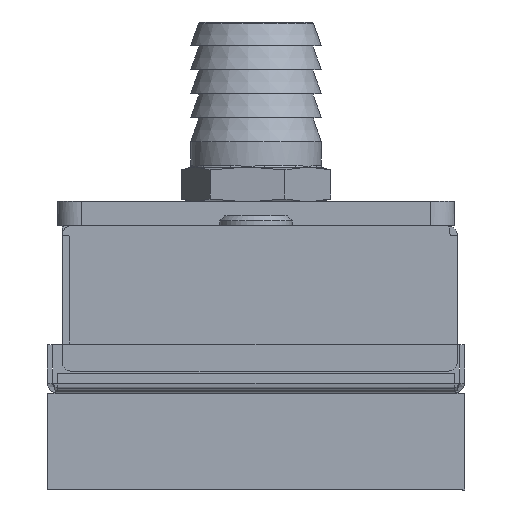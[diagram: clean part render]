
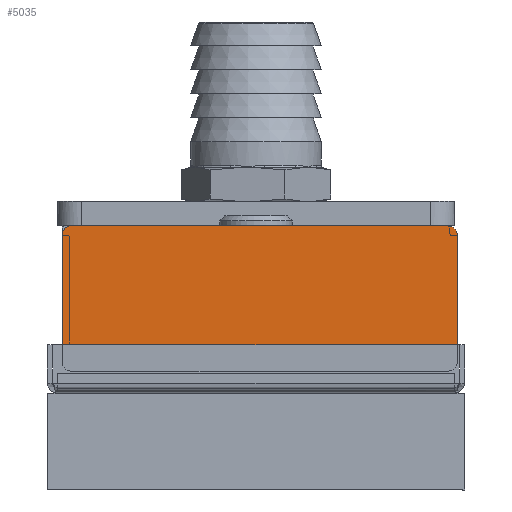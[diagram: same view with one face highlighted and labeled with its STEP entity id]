
A CAD part, front view. The second image highlights one B-rep face of the part: STEP entity #5035.
In plain terms, the highlighted planar face has unit normal (0, -1, 0).
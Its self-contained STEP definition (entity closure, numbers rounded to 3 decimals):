
#462 = CARTESIAN_POINT ( 'NONE',  ( -88.992, -1178.064, 27.327 ) ) ;
#503 = CIRCLE ( 'NONE', #7999, 2. ) ;
#957 = EDGE_CURVE ( 'NONE', #3614, #8486, #3384, .T. ) ;
#972 = VECTOR ( 'NONE', #7640, 1000. ) ;
#1458 = EDGE_CURVE ( 'NONE', #2331, #5798, #2917, .T. ) ;
#1490 = DIRECTION ( 'NONE',  ( -1., 0., 0. ) ) ;
#1536 = AXIS2_PLACEMENT_3D ( 'NONE', #9678, #3026, #3551 ) ;
#1692 = CARTESIAN_POINT ( 'NONE',  ( -9.492, -1178.064, 1.327 ) ) ;
#2048 = CARTESIAN_POINT ( 'NONE',  ( -11.492, -1178.064, 27.327 ) ) ;
#2141 = PLANE ( 'NONE',  #1536 ) ;
#2219 = EDGE_CURVE ( 'NONE', #11279, #3614, #6903, .T. ) ;
#2229 = ORIENTED_EDGE ( 'NONE', *, *, #4801, .F. ) ;
#2288 = VECTOR ( 'NONE', #9942, 1000. ) ;
#2331 = VERTEX_POINT ( 'NONE', #8978 ) ;
#2395 = VECTOR ( 'NONE', #10712, 1000. ) ;
#2917 = CIRCLE ( 'NONE', #12787, 2. ) ;
#2997 = CARTESIAN_POINT ( 'NONE',  ( -88.992, -1178.064, 1.327 ) ) ;
#3026 = DIRECTION ( 'NONE',  ( 0., -1., 0. ) ) ;
#3253 = CARTESIAN_POINT ( 'NONE',  ( -11.492, -1178.064, -0.673 ) ) ;
#3259 = CARTESIAN_POINT ( 'NONE',  ( -90.992, -1178.064, 1.327 ) ) ;
#3262 = DIRECTION ( 'NONE',  ( 0., 1., 0. ) ) ;
#3384 = CIRCLE ( 'NONE', #13544, 2. ) ;
#3551 = DIRECTION ( 'NONE',  ( -1., 0., 0. ) ) ;
#3614 = VERTEX_POINT ( 'NONE', #6202 ) ;
#3818 = DIRECTION ( 'NONE',  ( -1., 0., 0. ) ) ;
#4199 = DIRECTION ( 'NONE',  ( 1., 0., 0. ) ) ;
#4268 = CARTESIAN_POINT ( 'NONE',  ( -9.492, -1178.064, 27.327 ) ) ;
#4605 = ORIENTED_EDGE ( 'NONE', *, *, #4772, .F. ) ;
#4765 = ORIENTED_EDGE ( 'NONE', *, *, #10322, .F. ) ;
#4772 = EDGE_CURVE ( 'NONE', #9343, #5471, #503, .T. ) ;
#4801 = EDGE_CURVE ( 'NONE', #7548, #11279, #12663, .T. ) ;
#5035 = ADVANCED_FACE ( 'NONE', ( #12659 ), #2141, .T. ) ;
#5040 = CARTESIAN_POINT ( 'NONE',  ( -11.492, -1178.064, 29.327 ) ) ;
#5379 = ORIENTED_EDGE ( 'NONE', *, *, #10903, .F. ) ;
#5471 = VERTEX_POINT ( 'NONE', #4268 ) ;
#5518 = DIRECTION ( 'NONE',  ( 0., 1., 0. ) ) ;
#5773 = ORIENTED_EDGE ( 'NONE', *, *, #957, .F. ) ;
#5798 = VERTEX_POINT ( 'NONE', #12196 ) ;
#6202 = CARTESIAN_POINT ( 'NONE',  ( -88.992, -1178.064, -0.673 ) ) ;
#6544 = DIRECTION ( 'NONE',  ( 0., 0., -1. ) ) ;
#6693 = LINE ( 'NONE', #7457, #2395 ) ;
#6903 = LINE ( 'NONE', #13207, #2288 ) ;
#7457 = CARTESIAN_POINT ( 'NONE',  ( -90.992, -1178.064, 1.327 ) ) ;
#7548 = VERTEX_POINT ( 'NONE', #1692 ) ;
#7603 = CARTESIAN_POINT ( 'NONE',  ( -9.492, -1178.064, 1.327 ) ) ;
#7640 = DIRECTION ( 'NONE',  ( 1., 0., 0. ) ) ;
#7999 = AXIS2_PLACEMENT_3D ( 'NONE', #2048, #3262, #12525 ) ;
#8299 = ORIENTED_EDGE ( 'NONE', *, *, #1458, .F. ) ;
#8486 = VERTEX_POINT ( 'NONE', #3259 ) ;
#8978 = CARTESIAN_POINT ( 'NONE',  ( -90.992, -1178.064, 27.327 ) ) ;
#9343 = VERTEX_POINT ( 'NONE', #5040 ) ;
#9588 = LINE ( 'NONE', #11910, #972 ) ;
#9678 = CARTESIAN_POINT ( 'NONE',  ( -88.992, -1178.064, 1.327 ) ) ;
#9942 = DIRECTION ( 'NONE',  ( -1., 0., 0. ) ) ;
#10150 = EDGE_CURVE ( 'NONE', #8486, #2331, #6693, .T. ) ;
#10322 = EDGE_CURVE ( 'NONE', #5471, #7548, #11788, .T. ) ;
#10358 = AXIS2_PLACEMENT_3D ( 'NONE', #13525, #11323, #4199 ) ;
#10598 = ORIENTED_EDGE ( 'NONE', *, *, #2219, .F. ) ;
#10712 = DIRECTION ( 'NONE',  ( 0., 0., 1. ) ) ;
#10903 = EDGE_CURVE ( 'NONE', #5798, #9343, #9588, .T. ) ;
#11077 = ORIENTED_EDGE ( 'NONE', *, *, #10150, .F. ) ;
#11279 = VERTEX_POINT ( 'NONE', #3253 ) ;
#11323 = DIRECTION ( 'NONE',  ( 0., 1., 0. ) ) ;
#11788 = LINE ( 'NONE', #7603, #12329 ) ;
#11910 = CARTESIAN_POINT ( 'NONE',  ( -88.992, -1178.064, 29.327 ) ) ;
#12196 = CARTESIAN_POINT ( 'NONE',  ( -88.992, -1178.064, 29.327 ) ) ;
#12329 = VECTOR ( 'NONE', #6544, 1000. ) ;
#12355 = DIRECTION ( 'NONE',  ( 0., 1., 0. ) ) ;
#12525 = DIRECTION ( 'NONE',  ( 1., 0., 0. ) ) ;
#12659 = FACE_OUTER_BOUND ( 'NONE', #12727, .T. ) ;
#12663 = CIRCLE ( 'NONE', #10358, 2. ) ;
#12727 = EDGE_LOOP ( 'NONE', ( #5773, #10598, #2229, #4765, #4605, #5379, #8299, #11077 ) ) ;
#12787 = AXIS2_PLACEMENT_3D ( 'NONE', #462, #5518, #1490 ) ;
#13207 = CARTESIAN_POINT ( 'NONE',  ( -88.992, -1178.064, -0.673 ) ) ;
#13525 = CARTESIAN_POINT ( 'NONE',  ( -11.492, -1178.064, 1.327 ) ) ;
#13544 = AXIS2_PLACEMENT_3D ( 'NONE', #2997, #12355, #3818 ) ;
